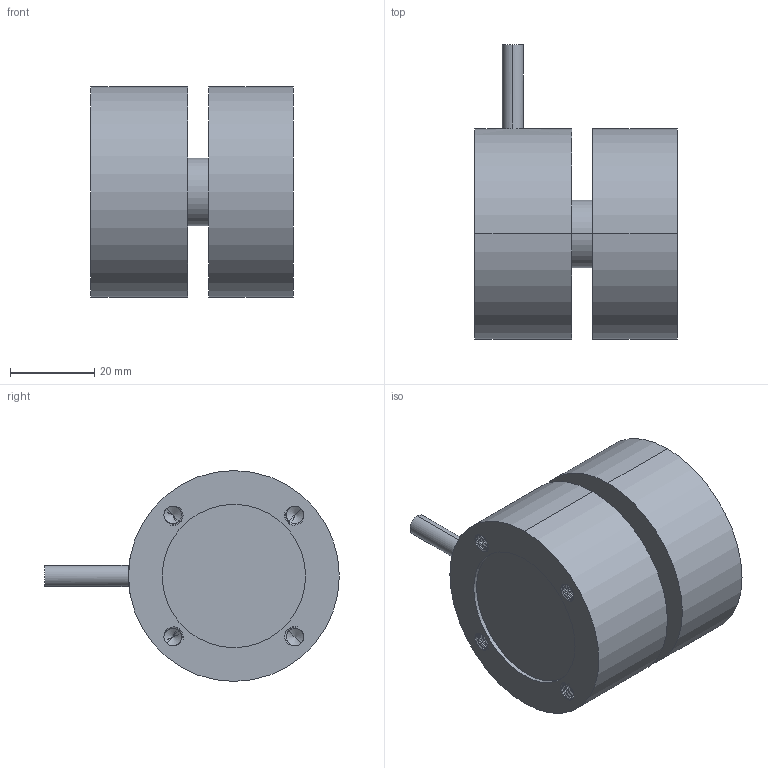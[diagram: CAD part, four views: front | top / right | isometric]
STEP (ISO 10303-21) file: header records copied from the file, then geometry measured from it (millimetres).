
FILE_DESCRIPTION((''),'2;1');
FILE_NAME('14EB_WXT','2022-02-18T',('箄疏'),(''),'PRO/ENGINEER BY PARAMETRIC TECHNOLOGY CORPORATION, 2015070','PRO/ENGINEER BY PARAMETRIC TECHNOLOGY CORPORATION, 2015070','');
FILE_SCHEMA(('CONFIG_CONTROL_DESIGN'));
Length unit declared in the file: millimetre
Products named in the file (1): 14EB_WXT
Bounding box: 48 x 69.87 x 50 mm (x, y, z)
Volume: 83466.5 mm3; surface area: 16858 mm2
Topology: 1 solids, 1 shells, 304 faces, 854 edges, 548 vertices
Faces by surface type: cylinder 210, bspline 64, cone 16, plane 14
Entity records: 23976 total; most frequent: CARTESIAN_POINT 17348, ORIENTED_EDGE 1676, DIRECTION 862, EDGE_CURVE 838, VERTEX_POINT 548, B_SPLINE_CURVE_WITH_KNOTS 498, EDGE_LOOP 316, FACE_OUTER_BOUND 304
